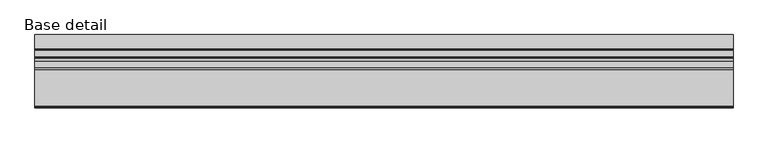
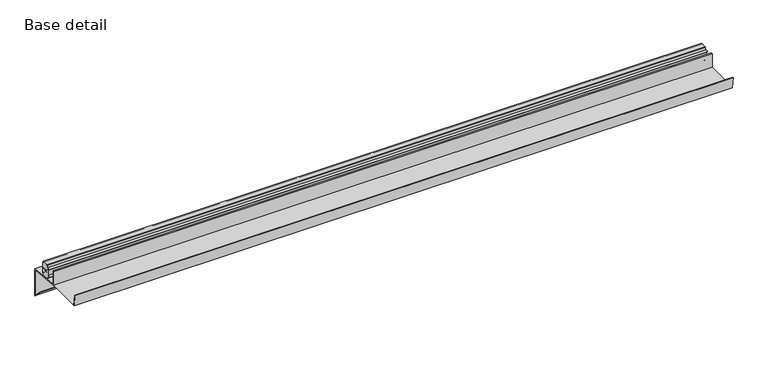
"""IFC4 building model written with IfcOpenShell, lengths in millimetres: beam geometry, QO-V-02_01 Base : Base detail."""

from ifc_helpers import new_model, si_unit, point, frame, frame_2d, origin, place, context, project, spatial, polyline, circle_curve, trimmed, segment, composite_curve, outline, extrude, source, transform, mapped, element, save


def base_detail_be26cd4f(model_context):
    return source(origin(), model_context, "Body", "SweptSolid", [
        extrude(outline(composite_curve([segment(polyline([(-34.6160805, -13.1475876), (-34.6160805, -14.6626133), (-35.9759407, -12.8497844), (-36.7759407, -12.8497844), (-36.7759407, -14.8513097), (-34.317153, -14.8513097), (-34.317153, -13.7830771), (-26.5392087, -13.7830771)]), True, "CONTINUOUS"), segment(trimmed(circle_curve(frame_2d((-26.5150144, -14.2824538)), 0.4999625), [point((-26.5392087, -13.7830771))], [point((-26.0150519, -14.2824538))], False, "CARTESIAN"), True, "CONTINUOUS"), segment(polyline([(-26.0150519, -14.2824538), (-26.0150519, -24.9962599), (-36.190378, -24.9962599)]), True, "CONTINUOUS"), segment(trimmed(circle_curve(frame_2d((-36.190378, -24.3962599)), 0.6), [point((-36.190378, -24.9962599))], [point((-36.790378, -24.3962599))], False, "CARTESIAN"), True, "CONTINUOUS"), segment(polyline([(-36.790378, -24.3962599), (-36.790378, -18.8577362), (-39.6058207, -18.8577362), (-39.6058207, -21.4563372), (-43.8493822, -19.9175879), (-40.3004498, -16.8943655), (-40.3004498, -8.1008097), (-43.8493822, -5.0775874), (-39.6058207, -3.538838), (-39.6058207, -6.137439), (-36.790378, -6.137439), (-36.790378, -0.5989153)]), True, "CONTINUOUS"), segment(trimmed(circle_curve(frame_2d((-36.190378, -0.5989153)), 0.6), [point((-36.790378, -0.5989153))], [point((-36.190378, 0.0010847))], False, "CARTESIAN"), True, "CONTINUOUS"), segment(polyline([(-36.190378, 0.0010847), (-26.0150519, 0.0010847), (-26.0150519, -10.7127214)]), True, "CONTINUOUS"), segment(trimmed(circle_curve(frame_2d((-26.5150144, -10.7127214)), 0.4999625), [point((-26.0150519, -10.7127214))], [point((-26.5392087, -11.2120981))], False, "CARTESIAN"), True, "CONTINUOUS"), segment(polyline([(-26.5392087, -11.2120981), (-34.317153, -11.2120981), (-34.317153, -10.1438655), (-36.7759407, -10.1438655), (-36.7759407, -12.1453908), (-35.9759407, -12.1453908), (-34.6160805, -10.3325619), (-34.6160805, -11.8475876), (-25.5027713, -11.8475876), (-25.5027713, -4.1794739), (-24.5783623, -2.6474985)]), True, "CONTINUOUS"), segment(trimmed(circle_curve(frame_2d((-24.3129396, -2.8076572)), 0.31), [point((-24.5783623, -2.6474985))], [point((-24.0029396, -2.8076572))], False, "CARTESIAN"), True, "CONTINUOUS"), segment(polyline([(-24.0029396, -2.8076572), (-24.0029396, -22.1876801)]), True, "CONTINUOUS"), segment(trimmed(circle_curve(frame_2d((-24.3129396, -22.1876801)), 0.31), [point((-24.0029396, -22.1876801))], [point((-24.5783623, -22.3478388))], False, "CARTESIAN"), True, "CONTINUOUS"), segment(polyline([(-24.5783623, -22.3478388), (-25.5027713, -20.8158634), (-25.5027713, -13.1475876), (-34.6160805, -13.1475876)]), True, "CONTINUOUS")], self_intersect=False)), frame((-487.5, 0.0, 0.0), z_axis=(1.0, 0.0, 0.0), x_axis=(0.0, 1.0, 0.0)), (0.0, 0.0, 1.0), 1154.0),
        extrude(outline(polyline([(-55.0, 0.0), (-55.0, -25.0), (0.0, -29.8118765), (0.0, -79.8118765), (-17.6776695, -62.134207), (-17.1119841, -61.5685215), (-0.8, -77.8805056), (-0.8, -30.5449414), (-55.8, -25.7330649), (-55.8, -0.8), (-57.0, -0.8), (-57.0, -25.8), (-119.0315596, -25.8), (-121.5120749, -5.5978247), (-120.7180379, -5.5003292), (-118.3237794, -25.0), (-57.8, -25.0), (-57.8, 0.0), (-55.0, 0.0)])), frame((-487.5, 0.0, 0.0), z_axis=(1.0, 0.0, 0.0), x_axis=(0.0, 1.0, 0.0)), (0.0, 0.0, 1.0), 1154.0),
    ])


if __name__ == "__main__":
    model = new_model("IFC4")
    model_context = context("Model", 3, world=origin())
    ifc_project = project(units=[si_unit("LENGTHUNIT", "METRE", prefix="MILLI")], contexts=[model_context])
    site = spatial("IfcSite", under=ifc_project)
    building = spatial("IfcBuilding", under=site)
    placement = place(None, origin())
    base_detail_shape = base_detail_be26cd4f(model_context)
    element("IfcBeam", 1, ObjectType="QO-V-02_01 Base : Base detail", at=placement, inside=building, context=model_context, shape_type="MappedRepresentation", body=[
        mapped(base_detail_shape, transform((0.0, 0.0, 0.0), x_axis=(1.0, 0.0, 0.0), y_axis=(0.0, 1.0, 0.0), z_axis=(0.0, 0.0, 1.0))),
    ])
    save(model, "model.ifc")
